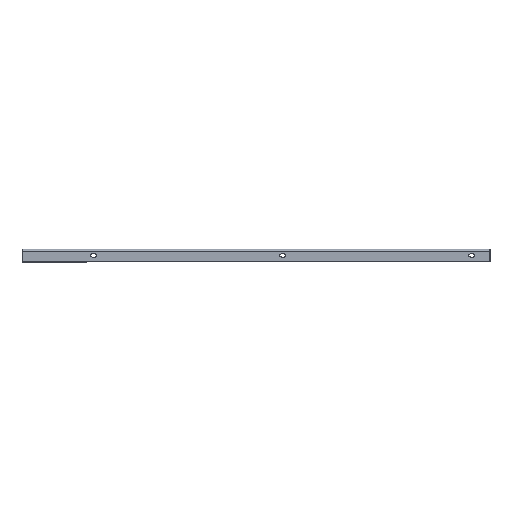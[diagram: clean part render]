
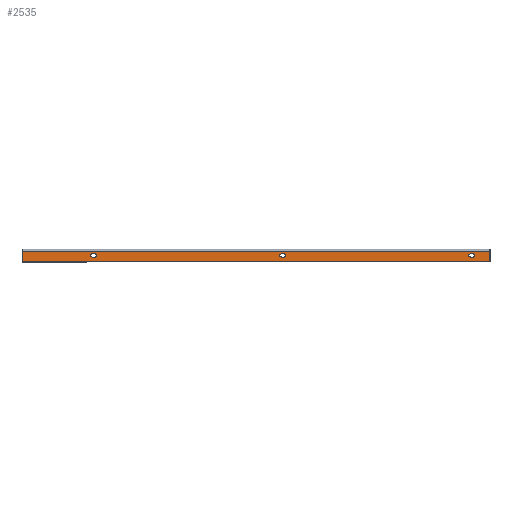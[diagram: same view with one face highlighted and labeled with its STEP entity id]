
A CAD part, front view. The second image highlights one B-rep face of the part: STEP entity #2535.
In plain terms, the highlighted planar face has unit normal (0, -1, 0).
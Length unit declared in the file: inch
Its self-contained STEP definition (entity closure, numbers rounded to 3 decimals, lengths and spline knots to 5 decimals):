
#39 = DIRECTION ( 'NONE',  ( 0., 1., 0. ) ) ;
#61 = ORIENTED_EDGE ( 'NONE', *, *, #410, .T. ) ;
#170 = CARTESIAN_POINT ( 'NONE',  ( 57.25, 0., -0.253 ) ) ;
#196 = LINE ( 'NONE', #4375, #4344 ) ;
#226 = AXIS2_PLACEMENT_3D ( 'NONE', #4910, #39, #4643 ) ;
#265 = CARTESIAN_POINT ( 'NONE',  ( 8.9685, 0., -0.9375 ) ) ;
#316 = VERTEX_POINT ( 'NONE', #2849 ) ;
#317 = DIRECTION ( 'NONE',  ( 0., 0., 1. ) ) ;
#320 = DIRECTION ( 'NONE',  ( -1., 0., 0. ) ) ;
#350 = DIRECTION ( 'NONE',  ( 0., 1., 0. ) ) ;
#354 = ORIENTED_EDGE ( 'NONE', *, *, #2985, .T. ) ;
#376 = EDGE_LOOP ( 'NONE', ( #1735, #354, #2475, #619 ) ) ;
#383 = CARTESIAN_POINT ( 'NONE',  ( 8.9685, 0., -0.75 ) ) ;
#410 = EDGE_CURVE ( 'NONE', #4135, #1985, #1330, .T. ) ;
#418 = ORIENTED_EDGE ( 'NONE', *, *, #4562, .T. ) ;
#442 = VERTEX_POINT ( 'NONE', #1364 ) ;
#451 = CIRCLE ( 'NONE', #1923, 0.1875 ) ;
#458 = LINE ( 'NONE', #265, #4576 ) ;
#459 = EDGE_CURVE ( 'NONE', #1256, #3755, #4158, .T. ) ;
#489 = CARTESIAN_POINT ( 'NONE',  ( 55.2185, 0., -0.5625 ) ) ;
#525 = CARTESIAN_POINT ( 'NONE',  ( 8.5935, 0., -0.5625 ) ) ;
#571 = VERTEX_POINT ( 'NONE', #2986 ) ;
#619 = ORIENTED_EDGE ( 'NONE', *, *, #1904, .T. ) ;
#687 = DIRECTION ( 'NONE',  ( 0., 0., 1. ) ) ;
#694 = DIRECTION ( 'NONE',  ( 0., 1., 0. ) ) ;
#890 = VECTOR ( 'NONE', #3677, 39.37008 ) ;
#907 = CARTESIAN_POINT ( 'NONE',  ( 32.0935, 0., -0.75 ) ) ;
#919 = VERTEX_POINT ( 'NONE', #525 ) ;
#921 = DIRECTION ( 'NONE',  ( 0., 1., 0. ) ) ;
#932 = DIRECTION ( 'NONE',  ( 0., 0., 1. ) ) ;
#983 = CARTESIAN_POINT ( 'NONE',  ( 0., 0., -1.5 ) ) ;
#996 = VERTEX_POINT ( 'NONE', #3379 ) ;
#998 = ORIENTED_EDGE ( 'NONE', *, *, #5076, .T. ) ;
#1000 = CARTESIAN_POINT ( 'NONE',  ( 57.25, 0., -1.5 ) ) ;
#1018 = LINE ( 'NONE', #3541, #890 ) ;
#1062 = DIRECTION ( 'NONE',  ( 0., 1., 0. ) ) ;
#1090 = CARTESIAN_POINT ( 'NONE',  ( 8.9685, 0., -0.5625 ) ) ;
#1133 = DIRECTION ( 'NONE',  ( 0., 0., 1. ) ) ;
#1142 = VERTEX_POINT ( 'NONE', #3707 ) ;
#1159 = CARTESIAN_POINT ( 'NONE',  ( 31.7185, 0., -0.75 ) ) ;
#1241 = CARTESIAN_POINT ( 'NONE',  ( 55.2185, 0., -0.9375 ) ) ;
#1256 = VERTEX_POINT ( 'NONE', #170 ) ;
#1277 = FACE_OUTER_BOUND ( 'NONE', #2915, .T. ) ;
#1330 = LINE ( 'NONE', #489, #3492 ) ;
#1344 = DIRECTION ( 'NONE',  ( -1., 0., 0. ) ) ;
#1364 = CARTESIAN_POINT ( 'NONE',  ( 8.5935, 0., -0.9375 ) ) ;
#1373 = LINE ( 'NONE', #4700, #2067 ) ;
#1597 = VECTOR ( 'NONE', #2546, 39.37008 ) ;
#1614 = ORIENTED_EDGE ( 'NONE', *, *, #4311, .T. ) ;
#1684 = DIRECTION ( 'NONE',  ( -1., 0., 0. ) ) ;
#1710 = AXIS2_PLACEMENT_3D ( 'NONE', #4149, #4166, #3962 ) ;
#1719 = LINE ( 'NONE', #2785, #3741 ) ;
#1730 = ORIENTED_EDGE ( 'NONE', *, *, #3797, .T. ) ;
#1735 = ORIENTED_EDGE ( 'NONE', *, *, #3264, .T. ) ;
#1768 = VECTOR ( 'NONE', #1344, 39.37008 ) ;
#1829 = DIRECTION ( 'NONE',  ( 0., 0., -1. ) ) ;
#1860 = VERTEX_POINT ( 'NONE', #4531 ) ;
#1904 = EDGE_CURVE ( 'NONE', #1142, #1986, #1373, .T. ) ;
#1919 = ORIENTED_EDGE ( 'NONE', *, *, #2871, .F. ) ;
#1923 = AXIS2_PLACEMENT_3D ( 'NONE', #3186, #694, #687 ) ;
#1985 = VERTEX_POINT ( 'NONE', #2776 ) ;
#1986 = VERTEX_POINT ( 'NONE', #2795 ) ;
#1998 = CARTESIAN_POINT ( 'NONE',  ( 54.8435, 0., -0.5625 ) ) ;
#2053 = CARTESIAN_POINT ( 'NONE',  ( 0., 0., -0.253 ) ) ;
#2067 = VECTOR ( 'NONE', #4214, 39.37008 ) ;
#2168 = EDGE_CURVE ( 'NONE', #3513, #1142, #5058, .T. ) ;
#2183 = DIRECTION ( 'NONE',  ( 1., 0., 0. ) ) ;
#2221 = CIRCLE ( 'NONE', #1710, 0.1875 ) ;
#2342 = FACE_BOUND ( 'NONE', #5148, .T. ) ;
#2475 = ORIENTED_EDGE ( 'NONE', *, *, #2168, .T. ) ;
#2479 = CARTESIAN_POINT ( 'NONE',  ( 54.8435, 0., -0.9375 ) ) ;
#2535 = ADVANCED_FACE ( 'NONE', ( #2342, #4459, #3424, #1277 ), #4877, .T. ) ;
#2546 = DIRECTION ( 'NONE',  ( -1., 0., 0. ) ) ;
#2594 = CARTESIAN_POINT ( 'NONE',  ( 31.7185, 0., -0.9375 ) ) ;
#2639 = CIRCLE ( 'NONE', #226, 0.1875 ) ;
#2723 = AXIS2_PLACEMENT_3D ( 'NONE', #383, #350, #317 ) ;
#2732 = CARTESIAN_POINT ( 'NONE',  ( 0., 0., -1.5 ) ) ;
#2776 = CARTESIAN_POINT ( 'NONE',  ( 55.2185, 0., -0.5625 ) ) ;
#2785 = CARTESIAN_POINT ( 'NONE',  ( 8.9685, 0., -0.5625 ) ) ;
#2795 = CARTESIAN_POINT ( 'NONE',  ( 32.0935, 0., -0.5625 ) ) ;
#2849 = CARTESIAN_POINT ( 'NONE',  ( 0., 0., -0.253 ) ) ;
#2871 = EDGE_CURVE ( 'NONE', #4529, #316, #196, .T. ) ;
#2911 = DIRECTION ( 'NONE',  ( 1., 0., 0. ) ) ;
#2915 = EDGE_LOOP ( 'NONE', ( #4844, #4057, #1919, #3131 ) ) ;
#2985 = EDGE_CURVE ( 'NONE', #1860, #3513, #1018, .T. ) ;
#2986 = CARTESIAN_POINT ( 'NONE',  ( 55.2185, 0., -0.9375 ) ) ;
#3074 = EDGE_LOOP ( 'NONE', ( #4323, #4435, #998, #61 ) ) ;
#3116 = VECTOR ( 'NONE', #1829, 39.37008 ) ;
#3131 = ORIENTED_EDGE ( 'NONE', *, *, #3824, .F. ) ;
#3168 = CIRCLE ( 'NONE', #2723, 0.1875 ) ;
#3186 = CARTESIAN_POINT ( 'NONE',  ( 54.8435, 0., -0.75 ) ) ;
#3241 = EDGE_CURVE ( 'NONE', #571, #4426, #4043, .T. ) ;
#3249 = CARTESIAN_POINT ( 'NONE',  ( 57.25, 0., -1.5 ) ) ;
#3262 = VERTEX_POINT ( 'NONE', #1090 ) ;
#3264 = EDGE_CURVE ( 'NONE', #1986, #1860, #3792, .T. ) ;
#3379 = CARTESIAN_POINT ( 'NONE',  ( 8.9685, 0., -0.9375 ) ) ;
#3424 = FACE_BOUND ( 'NONE', #3074, .T. ) ;
#3492 = VECTOR ( 'NONE', #2183, 39.37008 ) ;
#3513 = VERTEX_POINT ( 'NONE', #2594 ) ;
#3541 = CARTESIAN_POINT ( 'NONE',  ( 32.0935, 0., -0.9375 ) ) ;
#3677 = DIRECTION ( 'NONE',  ( -1., 0., 0. ) ) ;
#3702 = EDGE_CURVE ( 'NONE', #1985, #571, #2221, .T. ) ;
#3707 = CARTESIAN_POINT ( 'NONE',  ( 31.7185, 0., -0.5625 ) ) ;
#3741 = VECTOR ( 'NONE', #2911, 39.37008 ) ;
#3755 = VERTEX_POINT ( 'NONE', #3249 ) ;
#3792 = CIRCLE ( 'NONE', #4579, 0.1875 ) ;
#3797 = EDGE_CURVE ( 'NONE', #919, #3262, #1719, .T. ) ;
#3824 = EDGE_CURVE ( 'NONE', #3755, #4529, #4784, .T. ) ;
#3962 = DIRECTION ( 'NONE',  ( 0., 0., 1. ) ) ;
#4043 = LINE ( 'NONE', #1241, #1768 ) ;
#4046 = VECTOR ( 'NONE', #1684, 39.37008 ) ;
#4057 = ORIENTED_EDGE ( 'NONE', *, *, #4469, .T. ) ;
#4135 = VERTEX_POINT ( 'NONE', #1998 ) ;
#4149 = CARTESIAN_POINT ( 'NONE',  ( 55.2185, 0., -0.75 ) ) ;
#4158 = LINE ( 'NONE', #1000, #3116 ) ;
#4166 = DIRECTION ( 'NONE',  ( 0., 1., 0. ) ) ;
#4214 = DIRECTION ( 'NONE',  ( 1., 0., 0. ) ) ;
#4311 = EDGE_CURVE ( 'NONE', #442, #919, #2639, .T. ) ;
#4323 = ORIENTED_EDGE ( 'NONE', *, *, #3702, .T. ) ;
#4338 = DIRECTION ( 'NONE',  ( 0., 0., 1. ) ) ;
#4344 = VECTOR ( 'NONE', #4338, 39.37008 ) ;
#4363 = AXIS2_PLACEMENT_3D ( 'NONE', #1159, #1062, #1133 ) ;
#4375 = CARTESIAN_POINT ( 'NONE',  ( 0., 0., -0.128 ) ) ;
#4426 = VERTEX_POINT ( 'NONE', #2479 ) ;
#4435 = ORIENTED_EDGE ( 'NONE', *, *, #3241, .T. ) ;
#4459 = FACE_BOUND ( 'NONE', #376, .T. ) ;
#4469 = EDGE_CURVE ( 'NONE', #1256, #316, #5074, .T. ) ;
#4509 = AXIS2_PLACEMENT_3D ( 'NONE', #5125, #4850, #4699 ) ;
#4529 = VERTEX_POINT ( 'NONE', #983 ) ;
#4531 = CARTESIAN_POINT ( 'NONE',  ( 32.0935, 0., -0.9375 ) ) ;
#4562 = EDGE_CURVE ( 'NONE', #996, #442, #458, .T. ) ;
#4576 = VECTOR ( 'NONE', #320, 39.37008 ) ;
#4579 = AXIS2_PLACEMENT_3D ( 'NONE', #907, #921, #932 ) ;
#4643 = DIRECTION ( 'NONE',  ( 0., 0., 1. ) ) ;
#4699 = DIRECTION ( 'NONE',  ( 0., 0., -1. ) ) ;
#4700 = CARTESIAN_POINT ( 'NONE',  ( 32.0935, 0., -0.5625 ) ) ;
#4784 = LINE ( 'NONE', #2732, #1597 ) ;
#4844 = ORIENTED_EDGE ( 'NONE', *, *, #459, .F. ) ;
#4850 = DIRECTION ( 'NONE',  ( 0., -1., 0. ) ) ;
#4877 = PLANE ( 'NONE',  #4509 ) ;
#4910 = CARTESIAN_POINT ( 'NONE',  ( 8.5935, 0., -0.75 ) ) ;
#4957 = ORIENTED_EDGE ( 'NONE', *, *, #5104, .T. ) ;
#5058 = CIRCLE ( 'NONE', #4363, 0.1875 ) ;
#5074 = LINE ( 'NONE', #2053, #4046 ) ;
#5076 = EDGE_CURVE ( 'NONE', #4426, #4135, #451, .T. ) ;
#5104 = EDGE_CURVE ( 'NONE', #3262, #996, #3168, .T. ) ;
#5125 = CARTESIAN_POINT ( 'NONE',  ( 0., 0., 0. ) ) ;
#5148 = EDGE_LOOP ( 'NONE', ( #4957, #418, #1614, #1730 ) ) ;
